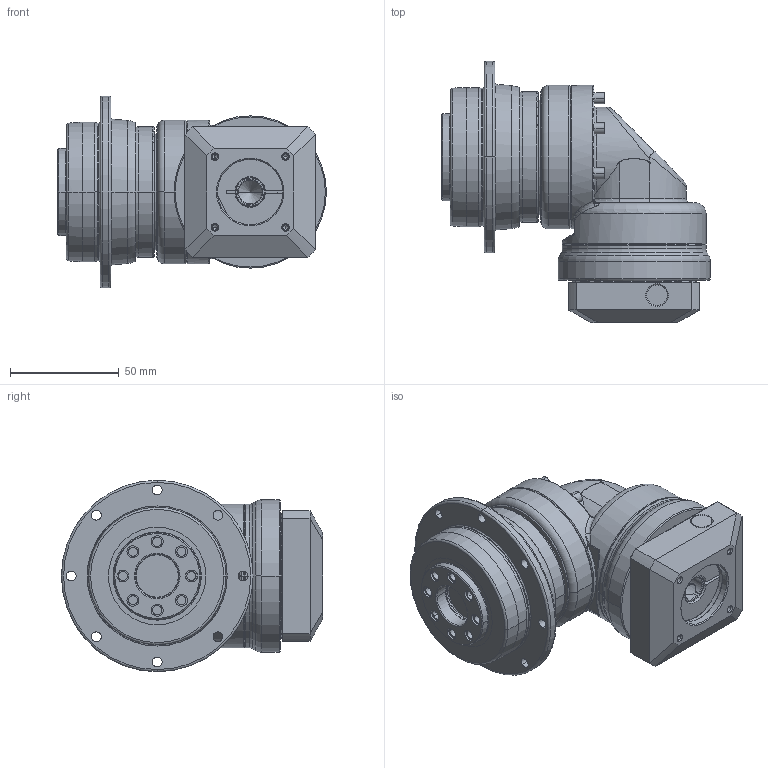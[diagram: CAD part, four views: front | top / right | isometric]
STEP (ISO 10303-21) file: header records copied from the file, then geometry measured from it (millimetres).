
FILE_DESCRIPTION((''),'2;1');
FILE_NAME('PDR064_1ST_11-P0411200101_ASM','2016-06-04T',('d01943'),(''),'PRO/ENGINEER BY PARAMETRIC TECHNOLOGY CORPORATION, 2008410','PRO/ENGINEER BY PARAMETRIC TECHNOLOGY CORPORATION, 2008410','');
FILE_SCHEMA(('CONFIG_CONTROL_DESIGN'));
Length unit declared in the file: millimetre
Products named in the file (10): P1355200001; P0367200001; P0274200001; P1349200001; P1017200001; P1350200101; P0411200101; P0503200005; P0713200101; PDR064_1ST_11-P0411200101_ASM
Assembly tree (9 placements, depth 2):
  PDR064_1ST_11-P0411200101_ASM
    P1355200001
    P0367200001
    P0274200001
    P1349200001
    P1017200001
    P1350200101
    P0411200101
    P0503200005
    P0713200101
Bounding box: 123.5 x 120 x 88 mm (x, y, z)
Volume: 398057.1 mm3; surface area: 104167.5 mm2
Topology: 9 solids, 9 shells, 556 faces, 1266 edges, 740 vertices
Faces by surface type: cylinder 190, cone 166, plane 90, torus 80, bspline 30
Entity records: 18292 total; most frequent: CARTESIAN_POINT 5632, DIRECTION 2812, ORIENTED_EDGE 2448, EDGE_CURVE 1224, AXIS2_PLACEMENT_3D 1197, VERTEX_POINT 740, EDGE_LOOP 654, CIRCLE 652
